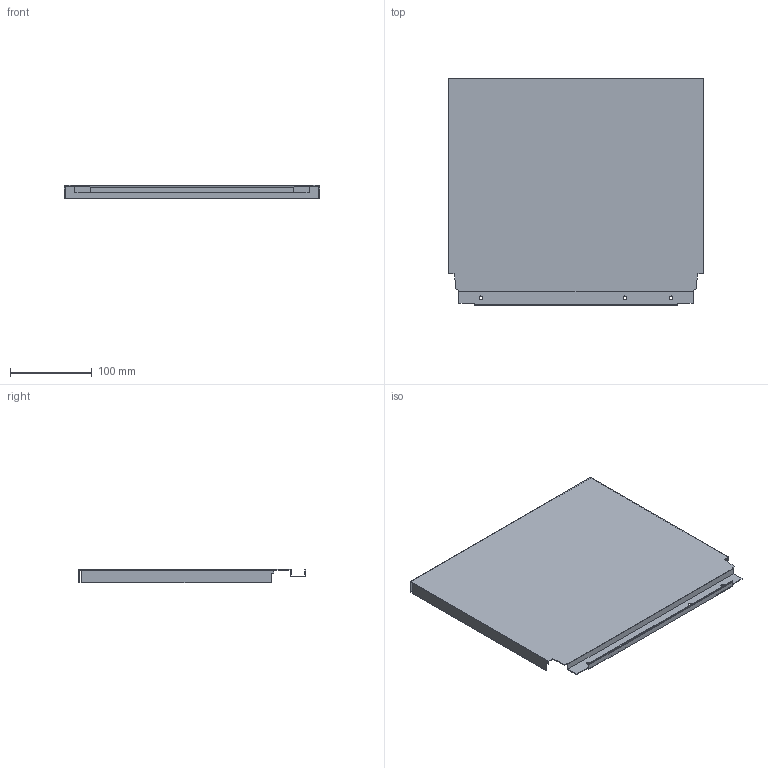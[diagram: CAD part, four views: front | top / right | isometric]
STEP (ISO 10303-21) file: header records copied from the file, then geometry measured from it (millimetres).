
FILE_DESCRIPTION (( 'STEP AP214' ), '1' );
FILE_NAME ('_DWD_XP Stahlrückwand_H278_KAB400_S18.step', '2010-07-08T13:03:54', ( 'grass' ), ( '' ), 'SwSTEP 2.0', 'SolidWorks 2010', '' );
FILE_SCHEMA (( 'AUTOMOTIVE_DESIGN' ));
Length unit declared in the file: millimetre
Products named in the file (1): _DWD_XP Stahlrückwand_H278_KAB400_S18
Bounding box: 313 x 278.57 x 16 mm (x, y, z)
Volume: 89806.4 mm3; surface area: 205260.1 mm2
Topology: 1 solids, 1 shells, 46 faces, 132 edges, 88 vertices
Faces by surface type: plane 40, cylinder 6
Entity records: 1534 total; most frequent: CARTESIAN_POINT 267, ORIENTED_EDGE 264, DIRECTION 238, EDGE_CURVE 132, VECTOR 120, LINE 120, VERTEX_POINT 88, AXIS2_PLACEMENT_3D 59
